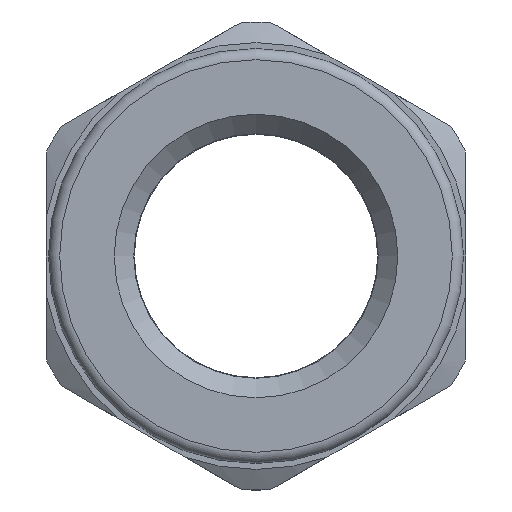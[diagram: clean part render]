
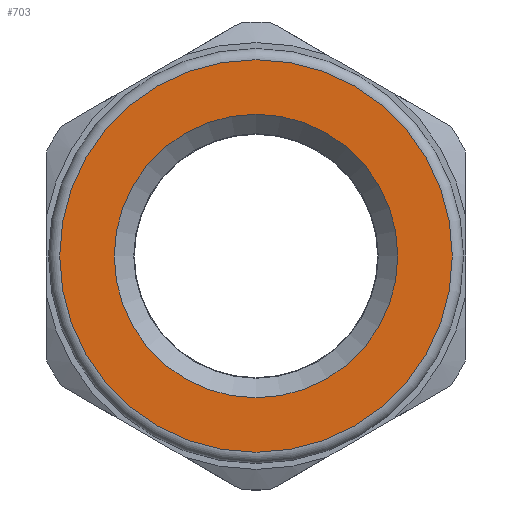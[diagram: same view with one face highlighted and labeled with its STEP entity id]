
A CAD part, front view. The second image highlights one B-rep face of the part: STEP entity #703.
In plain terms, the highlighted planar face has unit normal (0, -1, 0).
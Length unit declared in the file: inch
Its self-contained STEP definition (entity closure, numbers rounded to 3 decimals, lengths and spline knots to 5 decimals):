
#18=FACE_BOUND('',#167,.T.);
#62=CIRCLE('',#784,0.2535);
#63=CIRCLE('',#786,0.351);
#64=CIRCLE('',#787,0.351);
#126=FACE_OUTER_BOUND('',#166,.T.);
#166=EDGE_LOOP('',(#590,#591));
#167=EDGE_LOOP('',(#592));
#322=VERTEX_POINT('',#1239);
#323=VERTEX_POINT('',#1243);
#324=VERTEX_POINT('',#1244);
#421=EDGE_CURVE('',#322,#322,#62,.T.);
#422=EDGE_CURVE('',#323,#324,#63,.T.);
#423=EDGE_CURVE('',#324,#323,#64,.T.);
#590=ORIENTED_EDGE('',*,*,#422,.F.);
#591=ORIENTED_EDGE('',*,*,#423,.F.);
#592=ORIENTED_EDGE('',*,*,#421,.F.);
#672=PLANE('',#785);
#703=ADVANCED_FACE('',(#126,#18),#672,.T.);
#784=AXIS2_PLACEMENT_3D('',#1241,#956,#957);
#785=AXIS2_PLACEMENT_3D('',#1242,#958,#959);
#786=AXIS2_PLACEMENT_3D('',#1245,#960,#961);
#787=AXIS2_PLACEMENT_3D('',#1246,#962,#963);
#956=DIRECTION('center_axis',(0.,-1.,0.));
#957=DIRECTION('ref_axis',(0.,0.,1.));
#958=DIRECTION('center_axis',(0.,-1.,0.));
#959=DIRECTION('ref_axis',(0.,0.,-1.));
#960=DIRECTION('center_axis',(0.,1.,0.));
#961=DIRECTION('ref_axis',(0.,0.,1.));
#962=DIRECTION('center_axis',(0.,1.,0.));
#963=DIRECTION('ref_axis',(0.,0.,1.));
#1239=CARTESIAN_POINT('',(0.,0.,-0.2535));
#1241=CARTESIAN_POINT('Origin',(0.,0.,0.));
#1242=CARTESIAN_POINT('Origin',(0.,0.,-0.2185));
#1243=CARTESIAN_POINT('',(0.,0.,-0.351));
#1244=CARTESIAN_POINT('',(0.,0.,0.351));
#1245=CARTESIAN_POINT('Origin',(0.,0.,0.));
#1246=CARTESIAN_POINT('Origin',(0.,0.,0.));
